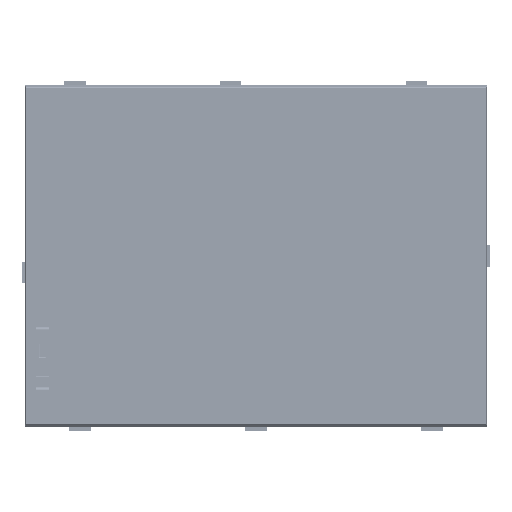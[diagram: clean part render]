
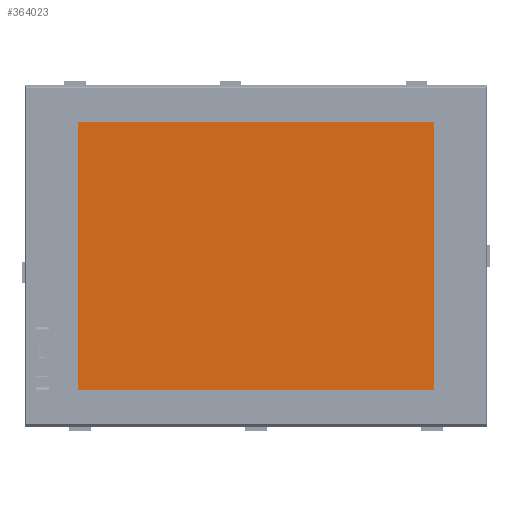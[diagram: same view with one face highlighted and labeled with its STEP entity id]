
A CAD part, top view. The second image highlights one B-rep face of the part: STEP entity #364023.
In plain terms, the highlighted planar face has unit normal (0, 0, 1).
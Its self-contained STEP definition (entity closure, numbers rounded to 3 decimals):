
#148723=DIRECTION('',(0.,-1.,0.));
#148724=VECTOR('',#148723,228.1);
#148725=CARTESIAN_POINT('',(-153.05,114.05,5.95));
#148726=LINE('',#148725,#148724);
#148735=CARTESIAN_POINT('',(-152.05,114.05,5.95));
#148736=DIRECTION('',(0.,0.,-1.));
#148737=DIRECTION('',(-1.,0.,0.));
#148738=AXIS2_PLACEMENT_3D('',#148735,#148736,#148737);
#148740=CARTESIAN_POINT('',(152.05,114.05,5.95));
#148741=DIRECTION('',(0.,0.,-1.));
#148742=DIRECTION('',(0.,1.,0.));
#148743=AXIS2_PLACEMENT_3D('',#148740,#148741,#148742);
#148745=CARTESIAN_POINT('',(152.05,-114.05,5.95));
#148746=DIRECTION('',(0.,0.,-1.));
#148747=DIRECTION('',(1.,0.,0.));
#148748=AXIS2_PLACEMENT_3D('',#148745,#148746,#148747);
#148750=CARTESIAN_POINT('',(-152.05,-114.05,5.95));
#148751=DIRECTION('',(0.,0.,-1.));
#148752=DIRECTION('',(0.,-1.,0.));
#148753=AXIS2_PLACEMENT_3D('',#148750,#148751,#148752);
#148755=DIRECTION('',(-1.,0.,0.));
#148756=VECTOR('',#148755,304.1);
#148757=CARTESIAN_POINT('',(152.05,115.05,5.95));
#148758=LINE('',#148757,#148756);
#148767=DIRECTION('',(0.,1.,0.));
#148768=VECTOR('',#148767,228.1);
#148769=CARTESIAN_POINT('',(153.05,-114.05,5.95));
#148770=LINE('',#148769,#148768);
#148779=DIRECTION('',(1.,0.,0.));
#148780=VECTOR('',#148779,304.1);
#148781=CARTESIAN_POINT('',(-152.05,-115.05,5.95));
#148782=LINE('',#148781,#148780);
#184779=CARTESIAN_POINT('',(-153.05,114.05,5.95));
#184780=VERTEX_POINT('',#184779);
#184781=CARTESIAN_POINT('',(-153.05,-114.05,5.95));
#184782=VERTEX_POINT('',#184781);
#184783=CARTESIAN_POINT('',(-152.05,115.05,5.95));
#184784=VERTEX_POINT('',#184783);
#184785=CARTESIAN_POINT('',(152.05,115.05,5.95));
#184786=VERTEX_POINT('',#184785);
#184787=CARTESIAN_POINT('',(153.05,114.05,5.95));
#184788=VERTEX_POINT('',#184787);
#184789=CARTESIAN_POINT('',(153.05,-114.05,5.95));
#184790=VERTEX_POINT('',#184789);
#184791=CARTESIAN_POINT('',(152.05,-115.05,5.95));
#184792=VERTEX_POINT('',#184791);
#184793=CARTESIAN_POINT('',(-152.05,-115.05,5.95));
#184794=VERTEX_POINT('',#184793);
#364002=CARTESIAN_POINT('',(0.,0.,5.95));
#364003=DIRECTION('',(0.,0.,1.));
#364004=DIRECTION('',(1.,0.,0.));
#364005=AXIS2_PLACEMENT_3D('',#364002,#364003,#364004);
#364006=PLANE('',#364005);
#364007=ORIENTED_EDGE('',*,*,#363993,.T.);
#364009=ORIENTED_EDGE('',*,*,#364008,.F.);
#364011=ORIENTED_EDGE('',*,*,#364010,.T.);
#364013=ORIENTED_EDGE('',*,*,#364012,.F.);
#364015=ORIENTED_EDGE('',*,*,#364014,.T.);
#364017=ORIENTED_EDGE('',*,*,#364016,.F.);
#364019=ORIENTED_EDGE('',*,*,#364018,.T.);
#364020=ORIENTED_EDGE('',*,*,#363980,.F.);
#364021=EDGE_LOOP('',(#364007,#364009,#364011,#364013,#364015,#364017,#364019,
#364020));
#364022=FACE_OUTER_BOUND('',#364021,.F.);
#364023=ADVANCED_FACE('',(#364022),#364006,.T.);
#148739=CIRCLE('',#148738,1.);
#148744=CIRCLE('',#148743,1.);
#148749=CIRCLE('',#148748,1.);
#148754=CIRCLE('',#148753,1.);
#363980=EDGE_CURVE('',#184780,#184782,#148726,.T.);
#363993=EDGE_CURVE('',#184780,#184784,#148739,.T.);
#364008=EDGE_CURVE('',#184786,#184784,#148758,.T.);
#364010=EDGE_CURVE('',#184786,#184788,#148744,.T.);
#364012=EDGE_CURVE('',#184790,#184788,#148770,.T.);
#364014=EDGE_CURVE('',#184790,#184792,#148749,.T.);
#364016=EDGE_CURVE('',#184794,#184792,#148782,.T.);
#364018=EDGE_CURVE('',#184794,#184782,#148754,.T.);
